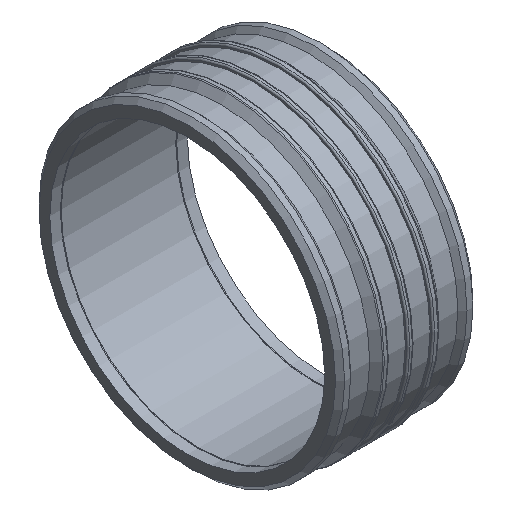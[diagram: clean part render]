
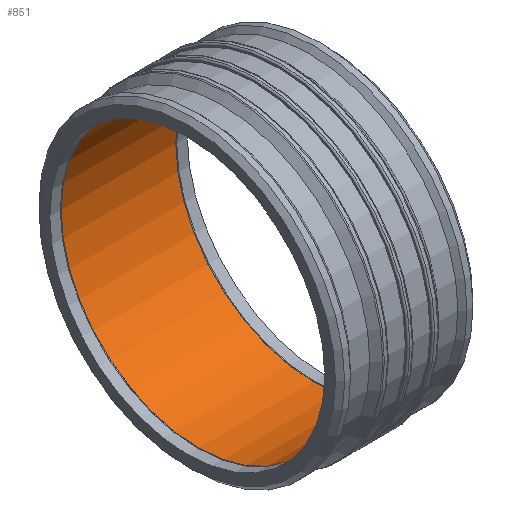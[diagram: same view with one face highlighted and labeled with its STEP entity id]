
A CAD part, isometric view. The second image highlights one B-rep face of the part: STEP entity #851.
In plain terms, the highlighted cylindrical face has radius 600 mm (diameter 1200 mm), a full revolution.
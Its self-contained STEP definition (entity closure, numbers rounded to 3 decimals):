
#62=LINE('',#1659,#86);
#86=VECTOR('',#1318,600.);
#107=CYLINDRICAL_SURFACE('',#1011,600.);
#159=FACE_OUTER_BOUND('',#220,.T.);
#220=EDGE_LOOP('',(#771,#772,#773,#774,#775,#776));
#315=CIRCLE('',#1009,600.);
#316=CIRCLE('',#1010,600.);
#317=CIRCLE('',#1012,600.);
#318=CIRCLE('',#1013,600.);
#407=VERTEX_POINT('',#1653);
#408=VERTEX_POINT('',#1654);
#409=VERTEX_POINT('',#1658);
#410=VERTEX_POINT('',#1660);
#530=EDGE_CURVE('',#407,#408,#315,.T.);
#531=EDGE_CURVE('',#408,#407,#316,.T.);
#532=EDGE_CURVE('',#408,#409,#62,.T.);
#533=EDGE_CURVE('',#410,#409,#317,.T.);
#534=EDGE_CURVE('',#409,#410,#318,.T.);
#771=ORIENTED_EDGE('',*,*,#530,.T.);
#772=ORIENTED_EDGE('',*,*,#532,.T.);
#773=ORIENTED_EDGE('',*,*,#533,.F.);
#774=ORIENTED_EDGE('',*,*,#534,.F.);
#775=ORIENTED_EDGE('',*,*,#532,.F.);
#776=ORIENTED_EDGE('',*,*,#531,.T.);
#851=ADVANCED_FACE('',(#159),#107,.F.);
#1009=AXIS2_PLACEMENT_3D('',#1655,#1312,#1313);
#1010=AXIS2_PLACEMENT_3D('',#1656,#1314,#1315);
#1011=AXIS2_PLACEMENT_3D('',#1657,#1316,#1317);
#1012=AXIS2_PLACEMENT_3D('',#1661,#1319,#1320);
#1013=AXIS2_PLACEMENT_3D('',#1662,#1321,#1322);
#1312=DIRECTION('center_axis',(1.,0.,0.));
#1313=DIRECTION('ref_axis',(0.,0.,-1.));
#1314=DIRECTION('center_axis',(1.,0.,0.));
#1315=DIRECTION('ref_axis',(0.,0.,-1.));
#1316=DIRECTION('center_axis',(1.,0.,0.));
#1317=DIRECTION('ref_axis',(0.,1.,0.));
#1318=DIRECTION('',(-1.,0.,0.));
#1319=DIRECTION('center_axis',(1.,0.,0.));
#1320=DIRECTION('ref_axis',(0.,0.,-1.));
#1321=DIRECTION('center_axis',(1.,0.,0.));
#1322=DIRECTION('ref_axis',(0.,0.,-1.));
#1653=CARTESIAN_POINT('',(250.484,600.,0.));
#1654=CARTESIAN_POINT('',(250.484,-600.,0.));
#1655=CARTESIAN_POINT('Origin',(250.484,0.,
0.));
#1656=CARTESIAN_POINT('Origin',(250.484,0.,
0.));
#1657=CARTESIAN_POINT('Origin',(-125.242,0.,
0.));
#1658=CARTESIAN_POINT('',(-250.484,-600.,0.));
#1659=CARTESIAN_POINT('',(-125.242,-600.,0.));
#1660=CARTESIAN_POINT('',(-250.484,600.,0.));
#1661=CARTESIAN_POINT('Origin',(-250.484,0.,
0.));
#1662=CARTESIAN_POINT('Origin',(-250.484,0.,
0.));
